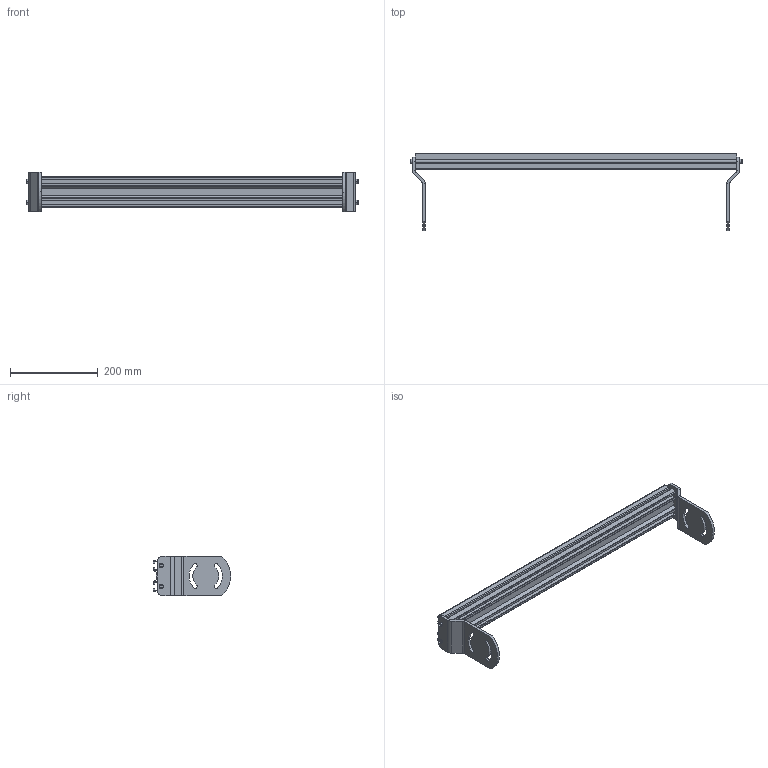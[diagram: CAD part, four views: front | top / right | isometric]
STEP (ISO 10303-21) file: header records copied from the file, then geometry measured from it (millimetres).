
FILE_DESCRIPTION((''),'2;1');
FILE_NAME('39MCM26-2_ASM','2023-03-01T',('jenni.wallner'),(''),'PRO/ENGINEER BY PARAMETRIC TECHNOLOGY CORPORATION, 2012420','PRO/ENGINEER BY PARAMETRIC TECHNOLOGY CORPORATION, 2012420','');
FILE_SCHEMA(('CONFIG_CONTROL_DESIGN'));
Length unit declared in the file: inch
Products named in the file (5): 710210_02879; 300825M; 708180P; 39MCM26-2_ASM_ASM; 39MCM26-2_ASM
Assembly tree (8 placements, depth 3):
  39MCM26-2_ASM
    39MCM26-2_ASM_ASM
      710210_02879
      300825M  x2
      708180P  x4
Bounding box: 755.97 x 176.65 x 88.93 mm (x, y, z)
Volume: 695889.8 mm3; surface area: 500257.9 mm2
Topology: 7 solids, 7 shells, 256 faces, 702 edges, 468 vertices
Faces by surface type: plane 144, cylinder 92, cone 20
Entity records: 5052 total; most frequent: CARTESIAN_POINT 890, DIRECTION 863, ORIENTED_EDGE 836, EDGE_CURVE 418, VECTOR 301, LINE 301, AXIS2_PLACEMENT_3D 281, VERTEX_POINT 276
